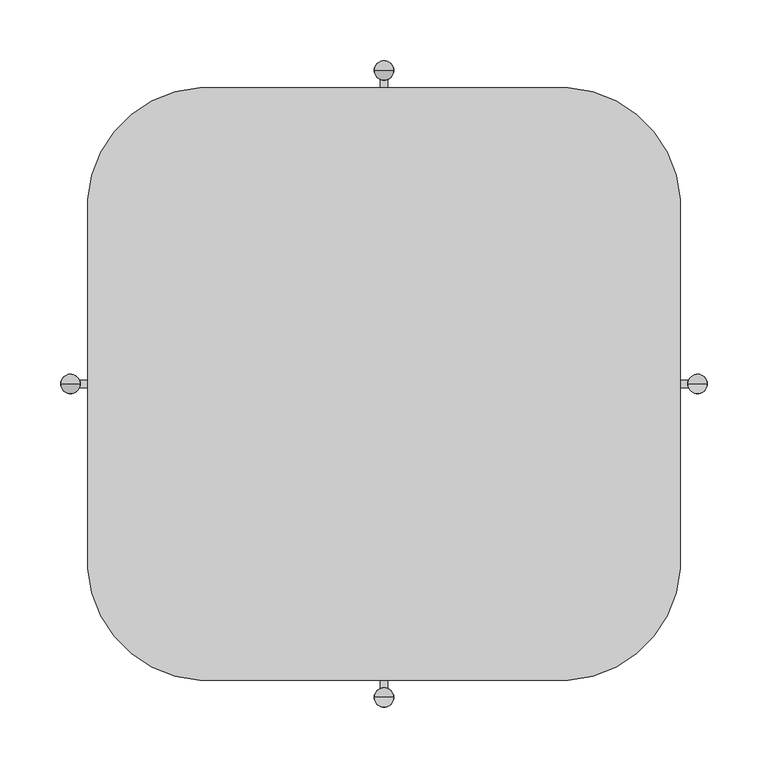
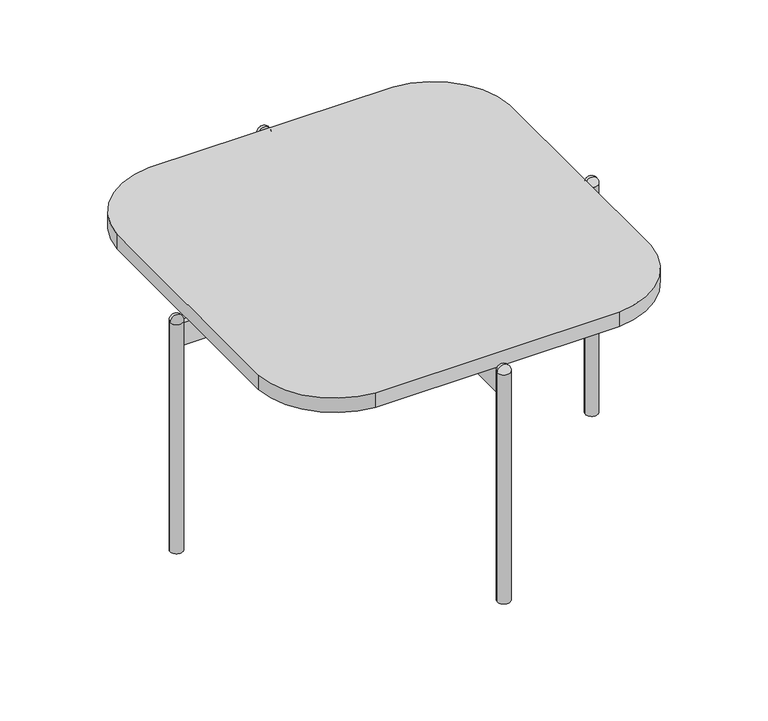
"""IFC4 building model written with IfcOpenShell, lengths in millimetres: furniture geometry, RECTANGULAR TABLE_H=31 : EI131B055050A_M."""

from ifc_helpers import new_model, si_unit, point, frame, frame_2d, origin, origin_with_axes, origin_2d, place, context, project, spatial, polyline, circle_curve, ellipse_curve, trimmed, segment, composite_curve, outline, extrude, source, transform, mapped, element, save
from ifc_brep_helpers import plane_surface, revolved_surface, advanced_brep


def furniture_cd6018a7(model_context):
    return source(origin(), model_context, "Body", "SolidModel", [
        extrude(outline(composite_curve([segment(trimmed(circle_curve(frame_2d((-145.119559, 145.119559)), 99.0), [point((-243.8958721, 151.7708721))], [point((-151.7708721, 243.8958722))], False, "CARTESIAN"), True, "CONTINUOUS"), segment(trimmed(circle_curve(frame_2d((0.0, -2010.0000004)), 2259.0000004), [point((-151.7708721, 243.8958722))], [point((151.7708721, 243.8958722))], False, "CARTESIAN"), True, "CONTINUOUS"), segment(trimmed(circle_curve(frame_2d((145.119559, 145.119559)), 99.0000001), [point((151.7708721, 243.8958722))], [point((243.8958722, 151.7708721))], False, "CARTESIAN"), True, "CONTINUOUS"), segment(trimmed(circle_curve(frame_2d((-2010.0000004, 0.0)), 2259.0000004), [point((243.8958722, 151.7708721))], [point((243.8958722, -151.7708721))], False, "CARTESIAN"), True, "CONTINUOUS"), segment(trimmed(circle_curve(frame_2d((145.119559, -145.1195589)), 99.0), [point((243.8958722, -151.7708721))], [point((151.7708721, -243.8958721))], False, "CARTESIAN"), True, "CONTINUOUS"), segment(trimmed(circle_curve(frame_2d((0.0, 2010.0000004)), 2259.0000004), [point((151.7708721, -243.8958721))], [point((-151.7708721, -243.8958721))], False, "CARTESIAN"), True, "CONTINUOUS"), segment(trimmed(circle_curve(frame_2d((-145.1195589, -145.1195589)), 99.0), [point((-151.7708721, -243.8958721))], [point((-243.8958721, -151.7708721))], False, "CARTESIAN"), True, "CONTINUOUS"), segment(trimmed(circle_curve(frame_2d((2010.0000004, 0.0)), 2259.0000004), [point((-243.8958721, -151.7708721))], [point((-243.8958721, 151.7708721))], False, "CARTESIAN"), True, "CONTINUOUS")], self_intersect=False)), frame((0.0, 0.0, 297.6939464), z_axis=(0.0, 0.0, 1.0), x_axis=(1.0, 0.0, 0.0)), (0.0, 0.0, 1.0), 19.0),
        advanced_brep(
        [(-8.0, -257.95, 301.1666667), (8.0, -257.95, 301.1666667), (0.0, -257.95, 309.1666667), (0.0, -257.95, 301.1666667)],
        [
            (0, 1, circle_curve(frame((0.0, -257.95, 301.1666667), z_axis=(0.0, 0.0, 1.0), x_axis=(1.0, 0.0, 0.0)), 8.0)),
            (1, 2, circle_curve(frame((0.0, -257.95, 301.1666667), z_axis=(0.0, -1.0, 0.0), x_axis=(1.0, 0.0, 0.0)), 8.0)),
            (2, 0, circle_curve(frame((0.0, -257.95, 301.1666667), z_axis=(0.0, -1.0, 0.0), x_axis=(-1.0, 0.0, 0.0)), 8.0)),
            (1, 0, circle_curve(frame((0.0, -257.95, 301.1666667), z_axis=(0.0, 0.0, 1.0), x_axis=(1.0, 0.0, 0.0)), 8.0)),
            (3, 1),
            (0, 3),
        ],
        [
            revolved_surface(trimmed(ellipse_curve(frame((0.0, -257.95, 301.1666667), z_axis=(0.0, 1.0, 0.0), x_axis=(1.0, 0.0, 0.0)), 8.0, 8.0), [point((0.0, -257.95, 309.1666667))], [point((8.0, -257.95, 301.1666667))], True, "CARTESIAN"), (0.0, -257.95, 2498.4), (0.0, 0.0, -1.0)),
            plane_surface(frame((0.0, -257.95, 301.1666667), z_axis=(0.0, 0.0, -1.0), x_axis=(1.0, 0.0, 0.0))),
        ],
        [
            (0, [[1, 2, 3]]),
            (0, [[4, -3, -2]]),
            (1, [[5, -1, 6]]),
            (1, [[-6, -4, -5]]),
        ],
    ),
        advanced_brep(
        [(265.95, 0.0, 301.1666667), (249.95, 0.0, 301.1666667), (257.95, 0.0, 309.1666667), (257.95, 0.0, 301.1666667)],
        [
            (0, 1, circle_curve(frame((257.95, 0.0, 301.1666667), z_axis=(0.0, 0.0, 1.0), x_axis=(-1.0, 0.0, 0.0)), 8.0)),
            (1, 2, circle_curve(frame((257.95, 0.0, 301.1666667), z_axis=(0.0, 1.0, 0.0), x_axis=(-1.0, 0.0, 0.0)), 8.0)),
            (2, 0, circle_curve(frame((257.95, 0.0, 301.1666667), z_axis=(0.0, 1.0, 0.0), x_axis=(1.0, 0.0, 0.0)), 8.0)),
            (1, 0, circle_curve(frame((257.95, 0.0, 301.1666667), z_axis=(0.0, 0.0, 1.0), x_axis=(-1.0, 0.0, 0.0)), 8.0)),
            (3, 1),
            (0, 3),
        ],
        [
            revolved_surface(trimmed(ellipse_curve(frame((257.95, 0.0, 301.1666667), z_axis=(0.0, -1.0, 0.0), x_axis=(-1.0, 0.0, 0.0)), 8.0, 8.0), [point((257.95, 0.0, 309.1666667))], [point((249.95, 0.0, 301.1666667))], True, "CARTESIAN"), (257.95, 0.0, 2498.4), (0.0, 0.0, -1.0)),
            plane_surface(frame((257.95, 0.0, 301.1666667), z_axis=(0.0, 0.0, -1.0), x_axis=(-1.0, 0.0, 0.0))),
        ],
        [
            (0, [[1, 2, 3]]),
            (0, [[4, -3, -2]]),
            (1, [[5, -1, 6]]),
            (1, [[-6, -4, -5]]),
        ],
    ),
        advanced_brep(
        [(0.0, 257.95, 309.1666667), (8.0, 257.95, 301.1666667), (-8.0, 257.95, 301.1666667), (0.0, 257.95, 301.1666667)],
        [
            (0, 1, circle_curve(frame((0.0, 257.95, 301.1666667), z_axis=(0.0, 1.0, 0.0), x_axis=(1.0, 0.0, 0.0)), 8.0)),
            (1, 2, circle_curve(frame((0.0, 257.95, 301.1666667), z_axis=(0.0, 0.0, 1.0), x_axis=(1.0, 0.0, 0.0)), 8.0)),
            (2, 0, circle_curve(frame((0.0, 257.95, 301.1666667), z_axis=(0.0, 1.0, 0.0), x_axis=(-1.0, 0.0, 0.0)), 8.0)),
            (2, 1, circle_curve(frame((0.0, 257.95, 301.1666667), z_axis=(0.0, 0.0, 1.0), x_axis=(1.0, 0.0, 0.0)), 8.0)),
            (1, 3),
            (3, 2),
        ],
        [
            revolved_surface(trimmed(ellipse_curve(frame((0.0, 257.95, 301.1666667), z_axis=(0.0, -1.0, 0.0), x_axis=(1.0, 0.0, 0.0)), 8.0, 8.0), [point((8.0, 257.95, 301.1666667))], [point((0.0, 257.95, 309.1666667))], True, "CARTESIAN"), (0.0, 257.95, 2498.4), (0.0, 0.0, 1.0)),
            plane_surface(frame((0.0, 257.95, 301.1666667), z_axis=(0.0, 0.0, -1.0), x_axis=(1.0, 0.0, 0.0))),
        ],
        [
            (0, [[1, 2, 3]]),
            (0, [[-3, 4, -1]]),
            (1, [[-2, 5, 6]]),
            (1, [[-4, -6, -5]]),
        ],
    ),
        advanced_brep(
        [(-257.95, 0.0, 309.1666667), (-249.95, 0.0, 301.1666667), (-265.95, 0.0, 301.1666667), (-257.95, 0.0, 301.1666667)],
        [
            (0, 1, circle_curve(frame((-257.95, 0.0, 301.1666667), z_axis=(0.0, 1.0, 0.0), x_axis=(1.0, 0.0, 0.0)), 8.0)),
            (1, 2, circle_curve(frame((-257.95, 0.0, 301.1666667), z_axis=(0.0, 0.0, 1.0), x_axis=(1.0, 0.0, 0.0)), 8.0)),
            (2, 0, circle_curve(frame((-257.95, 0.0, 301.1666667), z_axis=(0.0, 1.0, 0.0), x_axis=(-1.0, 0.0, 0.0)), 8.0)),
            (2, 1, circle_curve(frame((-257.95, 0.0, 301.1666667), z_axis=(0.0, 0.0, 1.0), x_axis=(1.0, 0.0, 0.0)), 8.0)),
            (1, 3),
            (3, 2),
        ],
        [
            revolved_surface(trimmed(ellipse_curve(frame((-257.95, 0.0, 301.1666667), z_axis=(0.0, -1.0, 0.0), x_axis=(1.0, 0.0, 0.0)), 8.0, 8.0), [point((-249.95, 0.0, 301.1666667))], [point((-257.95, 0.0, 309.1666667))], True, "CARTESIAN"), (-257.95, 0.0, 2498.4), (0.0, 0.0, 1.0)),
            plane_surface(frame((-257.95, 0.0, 301.1666667), z_axis=(0.0, 0.0, -1.0), x_axis=(1.0, 0.0, 0.0))),
        ],
        [
            (0, [[1, 2, 3]]),
            (0, [[-3, 4, -1]]),
            (1, [[-2, 5, 6]]),
            (1, [[-4, -6, -5]]),
        ],
    ),
        extrude(outline(composite_curve([segment(trimmed(circle_curve(origin_2d(), 23.0), [point((3.0, 22.8035085))], [point((-3.0, 22.8035085))], True, "CARTESIAN"), True, "CONTINUOUS"), segment(polyline([(-3.0, 22.8035085), (-3.0, 250.5338015)]), True, "CONTINUOUS"), segment(trimmed(circle_curve(frame_2d((0.0, 257.95)), 8.0), [point((-3.0, 250.5338015))], [point((3.0, 250.5338015))], True, "CARTESIAN"), True, "CONTINUOUS"), segment(polyline([(3.0, 250.5338015), (3.0, 22.8035085)]), True, "CONTINUOUS")], self_intersect=False)), frame((0.0, 0.0, 267.6939464), z_axis=(0.0, 0.0, 1.0), x_axis=(1.0, 0.0, 0.0)), (0.0, 0.0, 1.0), 30.0),
        extrude(outline(composite_curve([segment(trimmed(circle_curve(origin_2d(), 23.0), [point((-3.0, -22.8035085))], [point((3.0, -22.8035085))], True, "CARTESIAN"), True, "CONTINUOUS"), segment(polyline([(3.0, -22.8035085), (3.0, -250.5338015)]), True, "CONTINUOUS"), segment(trimmed(circle_curve(frame_2d((0.0, -257.95)), 8.0), [point((3.0, -250.5338015))], [point((-3.0, -250.5338015))], True, "CARTESIAN"), True, "CONTINUOUS"), segment(polyline([(-3.0, -250.5338015), (-3.0, -22.8035085)]), True, "CONTINUOUS")], self_intersect=False)), frame((0.0, 0.0, 267.6939464), z_axis=(0.0, 0.0, 1.0), x_axis=(1.0, 0.0, 0.0)), (0.0, 0.0, 1.0), 30.0),
        extrude(outline(composite_curve([segment(trimmed(circle_curve(origin_2d(), 23.0), [point((-22.8035085, 3.0))], [point((-22.8035085, -3.0))], True, "CARTESIAN"), True, "CONTINUOUS"), segment(polyline([(-22.8035085, -3.0), (-250.5338015, -3.0)]), True, "CONTINUOUS"), segment(trimmed(circle_curve(frame_2d((-257.95, 0.0)), 8.0), [point((-250.5338015, -3.0))], [point((-249.95, 0.0))], True, "CARTESIAN"), True, "CONTINUOUS"), segment(trimmed(circle_curve(frame_2d((-257.95, 0.0)), 8.0), [point((-249.95, 0.0))], [point((-250.5338015, 3.0))], True, "CARTESIAN"), True, "CONTINUOUS"), segment(polyline([(-250.5338015, 3.0), (-22.8035085, 3.0)]), True, "CONTINUOUS")], self_intersect=False)), frame((0.0, 0.0, 267.6939464), z_axis=(0.0, 0.0, 1.0), x_axis=(1.0, 0.0, 0.0)), (0.0, 0.0, 1.0), 30.0),
        extrude(outline(composite_curve([segment(trimmed(circle_curve(origin_2d(), 23.0), [point((22.8035085, -3.0))], [point((22.8035085, 3.0))], True, "CARTESIAN"), True, "CONTINUOUS"), segment(polyline([(22.8035085, 3.0), (250.5338015, 3.0)]), True, "CONTINUOUS"), segment(trimmed(circle_curve(frame_2d((257.95, 0.0)), 8.0), [point((250.5338015, 3.0))], [point((249.95, 0.0))], True, "CARTESIAN"), True, "CONTINUOUS"), segment(trimmed(circle_curve(frame_2d((257.95, 0.0)), 8.0), [point((249.95, 0.0))], [point((250.5338015, -3.0))], True, "CARTESIAN"), True, "CONTINUOUS"), segment(polyline([(250.5338015, -3.0), (22.8035085, -3.0)]), True, "CONTINUOUS")], self_intersect=False)), frame((0.0, 0.0, 267.6939464), z_axis=(0.0, 0.0, 1.0), x_axis=(1.0, 0.0, 0.0)), (0.0, 0.0, 1.0), 30.0),
        extrude(outline(composite_curve([segment(trimmed(circle_curve(origin_2d(), 23.0), [point((-23.0, 0.0))], [point((23.0, 0.0))], False, "CARTESIAN"), True, "CONTINUOUS"), segment(trimmed(circle_curve(origin_2d(), 23.0), [point((23.0, 0.0))], [point((-23.0, 0.0))], False, "CARTESIAN"), True, "CONTINUOUS")], self_intersect=False)), frame((0.0, 0.0, 267.6939464), z_axis=(0.0, 0.0, 1.0), x_axis=(1.0, 0.0, 0.0)), (0.0, 0.0, 1.0), 30.0),
        extrude(outline(composite_curve([segment(trimmed(circle_curve(frame_2d((0.0, 257.95)), 8.0), [point((-8.0, 257.95))], [point((8.0, 257.95))], False, "CARTESIAN"), True, "CONTINUOUS"), segment(trimmed(circle_curve(frame_2d((0.0, 257.95)), 8.0), [point((8.0, 257.95))], [point((-8.0, 257.95))], False, "CARTESIAN"), True, "CONTINUOUS")], self_intersect=False)), origin_with_axes(), (0.0, 0.0, 1.0), 301.1666667),
        extrude(outline(composite_curve([segment(trimmed(circle_curve(frame_2d((-257.95, 0.0)), 8.0), [point((-265.95, 0.0))], [point((-249.95, 0.0))], False, "CARTESIAN"), True, "CONTINUOUS"), segment(trimmed(circle_curve(frame_2d((-257.95, 0.0)), 8.0), [point((-249.95, 0.0))], [point((-265.95, 0.0))], False, "CARTESIAN"), True, "CONTINUOUS")], self_intersect=False)), origin_with_axes(), (0.0, 0.0, 1.0), 301.1666667),
        extrude(outline(composite_curve([segment(trimmed(circle_curve(frame_2d((0.0, -257.95)), 8.0), [point((-8.0, -257.95))], [point((8.0, -257.95))], False, "CARTESIAN"), True, "CONTINUOUS"), segment(trimmed(circle_curve(frame_2d((0.0, -257.95)), 8.0), [point((8.0, -257.95))], [point((-8.0, -257.95))], False, "CARTESIAN"), True, "CONTINUOUS")], self_intersect=False)), origin_with_axes(), (0.0, 0.0, 1.0), 301.1666667),
        extrude(outline(composite_curve([segment(trimmed(circle_curve(frame_2d((257.95, 0.0)), 8.0), [point((249.95, 0.0))], [point((265.95, 0.0))], False, "CARTESIAN"), True, "CONTINUOUS"), segment(trimmed(circle_curve(frame_2d((257.95, 0.0)), 8.0), [point((265.95, 0.0))], [point((249.95, 0.0))], False, "CARTESIAN"), True, "CONTINUOUS")], self_intersect=False)), origin_with_axes(), (0.0, 0.0, 1.0), 301.1666667),
    ])


if __name__ == "__main__":
    model = new_model("IFC4")
    model_context = context("Model", 3, world=origin())
    ifc_project = project(units=[si_unit("LENGTHUNIT", "METRE", prefix="MILLI")], contexts=[model_context])
    site = spatial("IfcSite", under=ifc_project)
    building = spatial("IfcBuilding", under=site)
    placement = place(None, origin())
    furniture_shape = furniture_cd6018a7(model_context)
    element("IfcFurniture", 1, ObjectType="RECTANGULAR TABLE_H=31 : EI131B055050A_M", at=placement, inside=building, context=model_context, shape_type="MappedRepresentation", body=[
        mapped(furniture_shape, transform((0.0, 0.0, 0.0), x_axis=(1.0, 0.0, 0.0), y_axis=(0.0, 1.0, 0.0), z_axis=(0.0, 0.0, 1.0))),
    ])
    save(model, "model.ifc")
